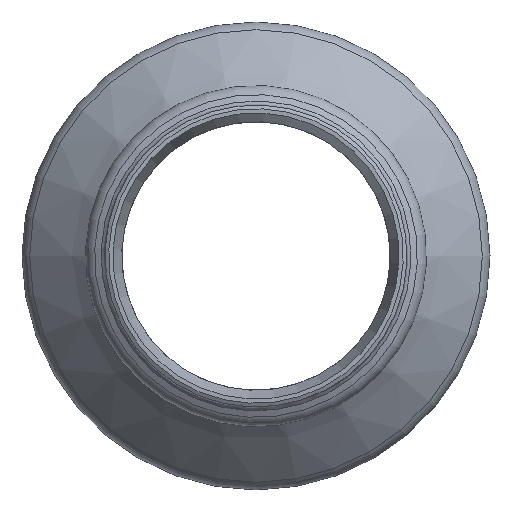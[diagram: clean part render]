
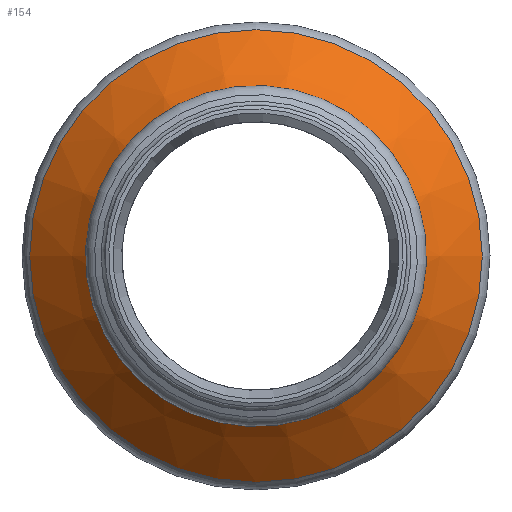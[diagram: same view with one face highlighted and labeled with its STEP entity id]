
A CAD part, left-side view. The second image highlights one B-rep face of the part: STEP entity #154.
In plain terms, the highlighted conical face has half-angle 45 degrees and reference radius 35.725 mm.
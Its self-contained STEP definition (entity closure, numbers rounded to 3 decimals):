
#112=CARTESIAN_POINT('',(-82.014,42.986,0.));
#113=VERTEX_POINT('',#112);
#114=CARTESIAN_POINT('',(-82.014,0.0,0.));
#115=DIRECTION('',(1.0,0.0,0.0));
#116=DIRECTION('',(0.0,-1.0,0.0));
#117=AXIS2_PLACEMENT_3D('',#114,#115,#116);
#118=CIRCLE('',#117,42.986);
#119=EDGE_CURVE('',#113,#113,#118,.T.);
#135=CARTESIAN_POINT('',(-89.275,0.0,0.0));
#136=DIRECTION('',(1.0,0.0,0.0));
#137=DIRECTION('',(0.0,1.0,0.0));
#138=AXIS2_PLACEMENT_3D('',#135,#136,#137);
#139=CONICAL_SURFACE('',#138,35.725,45.);
#140=CARTESIAN_POINT('',(-98.0,27.,0.0));
#141=VERTEX_POINT('',#140);
#142=CARTESIAN_POINT('',(-98.0,0.0,0.0));
#143=DIRECTION('',(1.0,0.0,0.0));
#144=DIRECTION('',(0.0,1.0,0.0));
#145=AXIS2_PLACEMENT_3D('',#142,#143,#144);
#146=CIRCLE('',#145,27.);
#147=EDGE_CURVE('',#141,#141,#146,.T.);
#148=ORIENTED_EDGE('',*,*,#147,.T.);
#149=EDGE_LOOP('',(#148));
#150=FACE_OUTER_BOUND('',#149,.T.);
#151=ORIENTED_EDGE('',*,*,#119,.F.);
#152=EDGE_LOOP('',(#151));
#153=FACE_BOUND('',#152,.T.);
#154=ADVANCED_FACE('',(#150,#153),#139,.T.);
